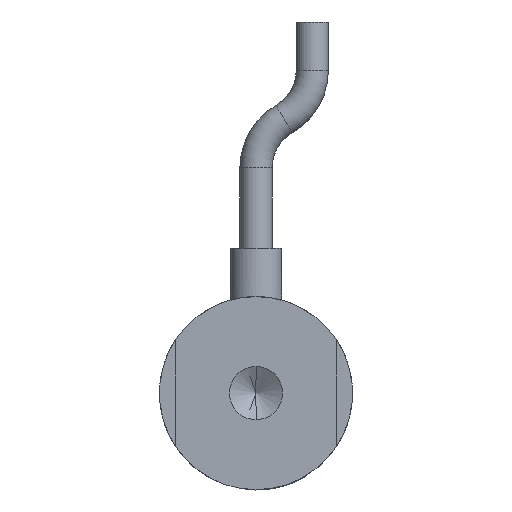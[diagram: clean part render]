
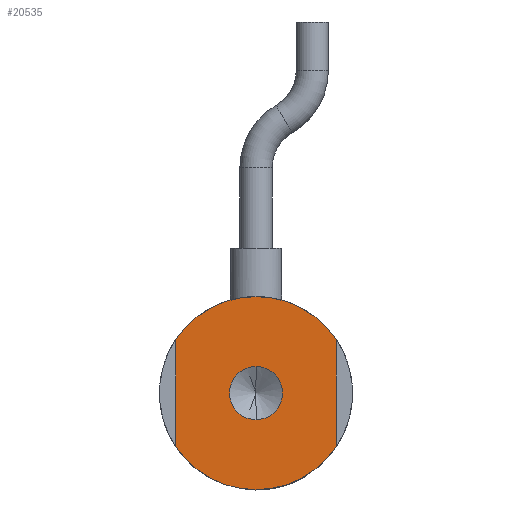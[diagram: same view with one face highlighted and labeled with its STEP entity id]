
A CAD part, front view. The second image highlights one B-rep face of the part: STEP entity #20535.
In plain terms, the highlighted planar face has unit normal (0, -1, 0).
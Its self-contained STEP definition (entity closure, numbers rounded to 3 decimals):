
#537 = EDGE_CURVE ( 'NONE', #21892, #24498, #42525, .T. ) ;
#2972 = DIRECTION ( 'NONE',  ( 0., 1., 0. ) ) ;
#3186 = CARTESIAN_POINT ( 'NONE',  ( 0., 0., 1.65 ) ) ;
#3929 = ORIENTED_EDGE ( 'NONE', *, *, #23683, .F. ) ;
#4318 = VECTOR ( 'NONE', #41952, 1000. ) ;
#4658 = CARTESIAN_POINT ( 'NONE',  ( 0., 0., 0. ) ) ;
#5063 = ORIENTED_EDGE ( 'NONE', *, *, #11498, .F. ) ;
#5282 = AXIS2_PLACEMENT_3D ( 'NONE', #23508, #2972, #26850 ) ;
#5397 = LINE ( 'NONE', #19234, #4318 ) ;
#7311 = ORIENTED_EDGE ( 'NONE', *, *, #8107, .F. ) ;
#7336 = AXIS2_PLACEMENT_3D ( 'NONE', #19207, #19340, #20858 ) ;
#8107 = EDGE_CURVE ( 'NONE', #23887, #25496, #16628, .T. ) ;
#8261 = DIRECTION ( 'NONE',  ( 0., 1., 0. ) ) ;
#8779 = ORIENTED_EDGE ( 'NONE', *, *, #537, .F. ) ;
#9849 = CARTESIAN_POINT ( 'NONE',  ( 5., 0., -3.317 ) ) ;
#10550 = VERTEX_POINT ( 'NONE', #42892 ) ;
#11050 = ORIENTED_EDGE ( 'NONE', *, *, #19883, .F. ) ;
#11288 = LINE ( 'NONE', #23193, #19432 ) ;
#11498 = EDGE_CURVE ( 'NONE', #25496, #10550, #19729, .T. ) ;
#12265 = AXIS2_PLACEMENT_3D ( 'NONE', #29307, #29255, #29245 ) ;
#12529 = CARTESIAN_POINT ( 'NONE',  ( 5., 0., 3.317 ) ) ;
#12764 = EDGE_LOOP ( 'NONE', ( #21215, #8779 ) ) ;
#14653 = CARTESIAN_POINT ( 'NONE',  ( 0., 0., 6. ) ) ;
#15080 = DIRECTION ( 'NONE',  ( 0., 1., 0. ) ) ;
#15130 = VERTEX_POINT ( 'NONE', #12529 ) ;
#15535 = DIRECTION ( 'NONE',  ( 0., 0., 1. ) ) ;
#15549 = DIRECTION ( 'NONE',  ( 0., 1., 0. ) ) ;
#15581 = CARTESIAN_POINT ( 'NONE',  ( 0., 0., 0. ) ) ;
#16628 = CIRCLE ( 'NONE', #12265, 6. ) ;
#17035 = ORIENTED_EDGE ( 'NONE', *, *, #23816, .F. ) ;
#17494 = VERTEX_POINT ( 'NONE', #42395 ) ;
#17903 = CARTESIAN_POINT ( 'NONE',  ( 0., 0., 0. ) ) ;
#18915 = CIRCLE ( 'NONE', #19240, 1.65 ) ;
#19207 = CARTESIAN_POINT ( 'NONE',  ( 0., 0., 0. ) ) ;
#19234 = CARTESIAN_POINT ( 'NONE',  ( -5., 0., 0. ) ) ;
#19240 = AXIS2_PLACEMENT_3D ( 'NONE', #17903, #41402, #21317 ) ;
#19340 = DIRECTION ( 'NONE',  ( 0., -1., 0. ) ) ;
#19432 = VECTOR ( 'NONE', #36637, 1000. ) ;
#19729 = CIRCLE ( 'NONE', #40423, 6. ) ;
#19883 = EDGE_CURVE ( 'NONE', #17494, #35886, #24809, .T. ) ;
#19998 = CIRCLE ( 'NONE', #36717, 6. ) ;
#20535 = ADVANCED_FACE ( 'NONE', ( #33144, #42107 ), #35249, .F. ) ;
#20858 = DIRECTION ( 'NONE',  ( 0., 0., -1. ) ) ;
#21215 = ORIENTED_EDGE ( 'NONE', *, *, #23499, .F. ) ;
#21317 = DIRECTION ( 'NONE',  ( 0., 0., -1. ) ) ;
#21892 = VERTEX_POINT ( 'NONE', #3186 ) ;
#23193 = CARTESIAN_POINT ( 'NONE',  ( 5., 0., 0. ) ) ;
#23499 = EDGE_CURVE ( 'NONE', #24498, #21892, #18915, .T. ) ;
#23508 = CARTESIAN_POINT ( 'NONE',  ( 0., 0., 0. ) ) ;
#23683 = EDGE_CURVE ( 'NONE', #10550, #17494, #5397, .T. ) ;
#23816 = EDGE_CURVE ( 'NONE', #15130, #23887, #11288, .T. ) ;
#23887 = VERTEX_POINT ( 'NONE', #9849 ) ;
#24498 = VERTEX_POINT ( 'NONE', #28352 ) ;
#24809 = CIRCLE ( 'NONE', #5282, 6. ) ;
#25496 = VERTEX_POINT ( 'NONE', #28233 ) ;
#26850 = DIRECTION ( 'NONE',  ( 0., 0., 1. ) ) ;
#26957 = EDGE_LOOP ( 'NONE', ( #3929, #5063, #7311, #17035, #31675, #11050 ) ) ;
#28233 = CARTESIAN_POINT ( 'NONE',  ( 0., 0., -6. ) ) ;
#28352 = CARTESIAN_POINT ( 'NONE',  ( 0., 0., -1.65 ) ) ;
#28637 = CARTESIAN_POINT ( 'NONE',  ( 0., 0., 0. ) ) ;
#29245 = DIRECTION ( 'NONE',  ( 0., 0., 1. ) ) ;
#29255 = DIRECTION ( 'NONE',  ( 0., 1., 0. ) ) ;
#29307 = CARTESIAN_POINT ( 'NONE',  ( 0., 0., 0. ) ) ;
#29528 = AXIS2_PLACEMENT_3D ( 'NONE', #4658, #15080, #38644 ) ;
#31675 = ORIENTED_EDGE ( 'NONE', *, *, #37282, .F. ) ;
#32005 = DIRECTION ( 'NONE',  ( 0., 0., 1. ) ) ;
#33144 = FACE_BOUND ( 'NONE', #12764, .T. ) ;
#35249 = PLANE ( 'NONE',  #29528 ) ;
#35886 = VERTEX_POINT ( 'NONE', #14653 ) ;
#36637 = DIRECTION ( 'NONE',  ( 0., 0., -1. ) ) ;
#36717 = AXIS2_PLACEMENT_3D ( 'NONE', #28637, #8261, #32005 ) ;
#37282 = EDGE_CURVE ( 'NONE', #35886, #15130, #19998, .T. ) ;
#38644 = DIRECTION ( 'NONE',  ( 0., 0., 1. ) ) ;
#40423 = AXIS2_PLACEMENT_3D ( 'NONE', #15581, #15549, #15535 ) ;
#41402 = DIRECTION ( 'NONE',  ( 0., -1., 0. ) ) ;
#41952 = DIRECTION ( 'NONE',  ( 0., 0., 1. ) ) ;
#42107 = FACE_OUTER_BOUND ( 'NONE', #26957, .T. ) ;
#42395 = CARTESIAN_POINT ( 'NONE',  ( -5., 0., 3.317 ) ) ;
#42525 = CIRCLE ( 'NONE', #7336, 1.65 ) ;
#42892 = CARTESIAN_POINT ( 'NONE',  ( -5., 0., -3.317 ) ) ;
